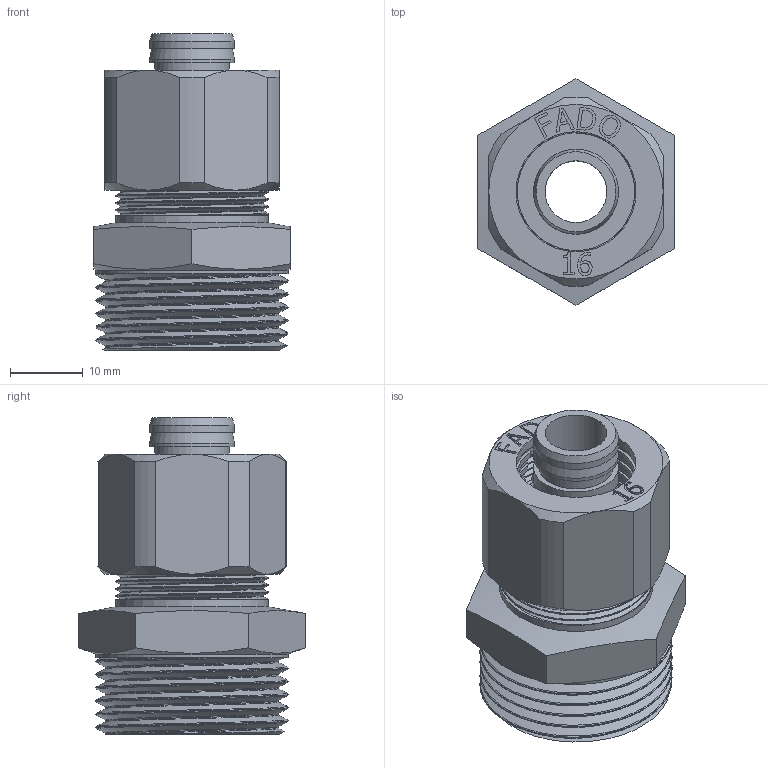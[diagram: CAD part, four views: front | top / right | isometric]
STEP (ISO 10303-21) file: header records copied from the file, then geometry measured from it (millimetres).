
FILE_DESCRIPTION(/* description */ (''),/* implementation_level */ '2;1');
FILE_NAME(/* name */ 'C:\Users\Doom\Desktop\Фадотех\Обжим\RFM22 16x0.75M 30.03.2020\RFM22 16x0.75M 30.03.2020.stp',/* time_stamp */ '2022-06-01T21:58:44+03:00',/* author */ ('Doom'),/* organization */ (''),/* preprocessor_version */ 'ST-DEVELOPER v18',/* originating_system */ 'Autodesk Inventor 2020',/* authorisation */ '');
FILE_SCHEMA (('AUTOMOTIVE_DESIGN { 1 0 10303 214 3 1 1 }'));
Length unit declared in the file: millimetre
Products named in the file (5): RFM22 16x0.75M 30.03.2020; RFM22 16x0.75M 30.03.2020_1; FADO MC Nut-16 15.02.2020; FADO MC Socket-16 15.02.2020; Olive 16 15.02.2020
Assembly tree (4 placements, depth 2):
  RFM22 16x0.75M 30.03.2020
    RFM22 16x0.75M 30.03.2020_1
    FADO MC Nut-16 15.02.2020
    FADO MC Socket-16 15.02.2020
    Olive 16 15.02.2020
Bounding box: 27 x 31.18 x 43.5 mm (x, y, z)
Volume: 11091.3 mm3; surface area: 16848.7 mm2
Topology: 7 solids, 7 shells, 518 faces, 1410 edges, 948 vertices
Faces by surface type: bspline 252, plane 151, cylinder 87, cone 28
Full cylindrical faces by diameter (mm): 8.5 x1, 10.2 x2, 11.7 x4, 12.6 x1, 14.7 x2, 15.5 x1, 16.5 x1, 19 x1, 19.5 x1, 19.517 x2, 19.867 x12, 20 x1, 21 x8, 21.35 x2, 23.75 x2, 26.44 x5
Entity records: 34144 total; most frequent: CARTESIAN_POINT 22587, ORIENTED_EDGE 2812, DIRECTION 1594, EDGE_CURVE 1406, VERTEX_POINT 946, B_SPLINE_CURVE_WITH_KNOTS 581, EDGE_LOOP 574, AXIS2_PLACEMENT_3D 534
